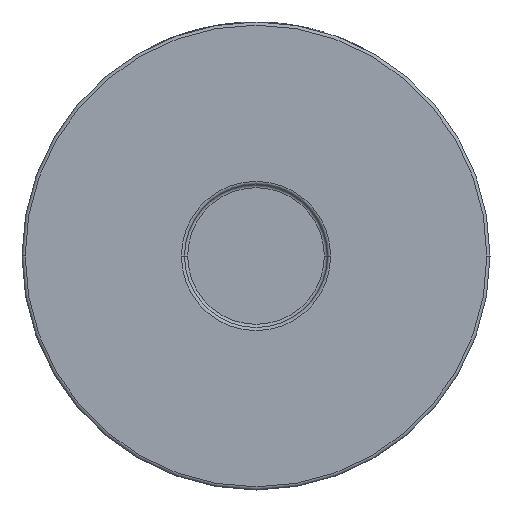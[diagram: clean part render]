
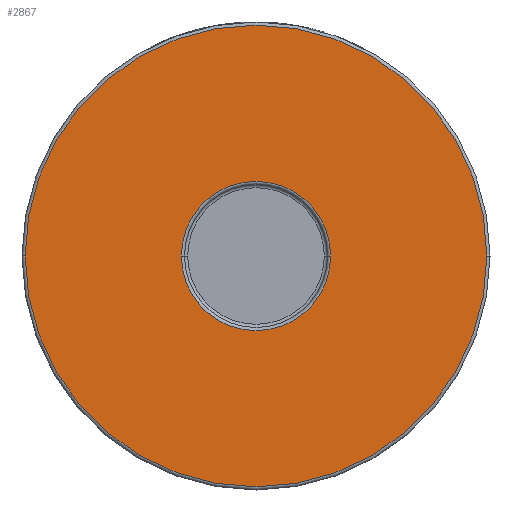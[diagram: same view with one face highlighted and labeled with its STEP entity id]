
A CAD part, front view. The second image highlights one B-rep face of the part: STEP entity #2867.
In plain terms, the highlighted planar face has unit normal (0, -1, 0).
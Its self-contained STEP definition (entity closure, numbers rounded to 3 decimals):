
#8 = AXIS2_PLACEMENT_3D ( 'NONE', #813, #1254, #1595 ) ;
#81 = EDGE_LOOP ( 'NONE', ( #97, #3516 ) ) ;
#97 = ORIENTED_EDGE ( 'NONE', *, *, #1625, .T. ) ;
#251 = CIRCLE ( 'NONE', #1953, 23.6 ) ;
#371 = DIRECTION ( 'NONE',  ( 1., 0., 0. ) ) ;
#442 = VERTEX_POINT ( 'NONE', #3601 ) ;
#521 = CARTESIAN_POINT ( 'NONE',  ( 23.6, -45., 0. ) ) ;
#599 = AXIS2_PLACEMENT_3D ( 'NONE', #1604, #3085, #4561 ) ;
#626 = VERTEX_POINT ( 'NONE', #3816 ) ;
#813 = CARTESIAN_POINT ( 'NONE',  ( 0., -45., 0. ) ) ;
#872 = FACE_BOUND ( 'NONE', #3733, .T. ) ;
#950 = FACE_OUTER_BOUND ( 'NONE', #81, .T. ) ;
#967 = AXIS2_PLACEMENT_3D ( 'NONE', #3809, #1954, #4229 ) ;
#1180 = ORIENTED_EDGE ( 'NONE', *, *, #3768, .T. ) ;
#1254 = DIRECTION ( 'NONE',  ( 0., -1., 0. ) ) ;
#1577 = PLANE ( 'NONE',  #599 ) ;
#1595 = DIRECTION ( 'NONE',  ( 1., 0., 0. ) ) ;
#1604 = CARTESIAN_POINT ( 'NONE',  ( 74., -45., 0. ) ) ;
#1625 = EDGE_CURVE ( 'NONE', #442, #626, #3328, .T. ) ;
#1690 = AXIS2_PLACEMENT_3D ( 'NONE', #2300, #1901, #371 ) ;
#1901 = DIRECTION ( 'NONE',  ( 0., -1., 0. ) ) ;
#1952 = DIRECTION ( 'NONE',  ( 0., 1., 0. ) ) ;
#1953 = AXIS2_PLACEMENT_3D ( 'NONE', #2674, #1952, #3443 ) ;
#1954 = DIRECTION ( 'NONE',  ( 0., 1., 0. ) ) ;
#2140 = VERTEX_POINT ( 'NONE', #521 ) ;
#2300 = CARTESIAN_POINT ( 'NONE',  ( 0., -45., 0. ) ) ;
#2659 = VERTEX_POINT ( 'NONE', #4333 ) ;
#2674 = CARTESIAN_POINT ( 'NONE',  ( 0., -45., 0. ) ) ;
#2713 = ORIENTED_EDGE ( 'NONE', *, *, #4620, .T. ) ;
#2840 = EDGE_CURVE ( 'NONE', #626, #442, #4786, .T. ) ;
#2867 = ADVANCED_FACE ( 'NONE', ( #872, #950 ), #1577, .T. ) ;
#3085 = DIRECTION ( 'NONE',  ( 0., -1., 0. ) ) ;
#3328 = CIRCLE ( 'NONE', #8, 73. ) ;
#3443 = DIRECTION ( 'NONE',  ( 1., 0., 0. ) ) ;
#3516 = ORIENTED_EDGE ( 'NONE', *, *, #2840, .T. ) ;
#3599 = CIRCLE ( 'NONE', #967, 23.6 ) ;
#3601 = CARTESIAN_POINT ( 'NONE',  ( 73., -45., 0. ) ) ;
#3733 = EDGE_LOOP ( 'NONE', ( #2713, #1180 ) ) ;
#3768 = EDGE_CURVE ( 'NONE', #2659, #2140, #251, .T. ) ;
#3809 = CARTESIAN_POINT ( 'NONE',  ( 0., -45., 0. ) ) ;
#3816 = CARTESIAN_POINT ( 'NONE',  ( -73., -45., 0. ) ) ;
#4229 = DIRECTION ( 'NONE',  ( 1., 0., 0. ) ) ;
#4333 = CARTESIAN_POINT ( 'NONE',  ( -23.6, -45., 0. ) ) ;
#4561 = DIRECTION ( 'NONE',  ( 1., 0., 0. ) ) ;
#4620 = EDGE_CURVE ( 'NONE', #2140, #2659, #3599, .T. ) ;
#4786 = CIRCLE ( 'NONE', #1690, 73. ) ;
